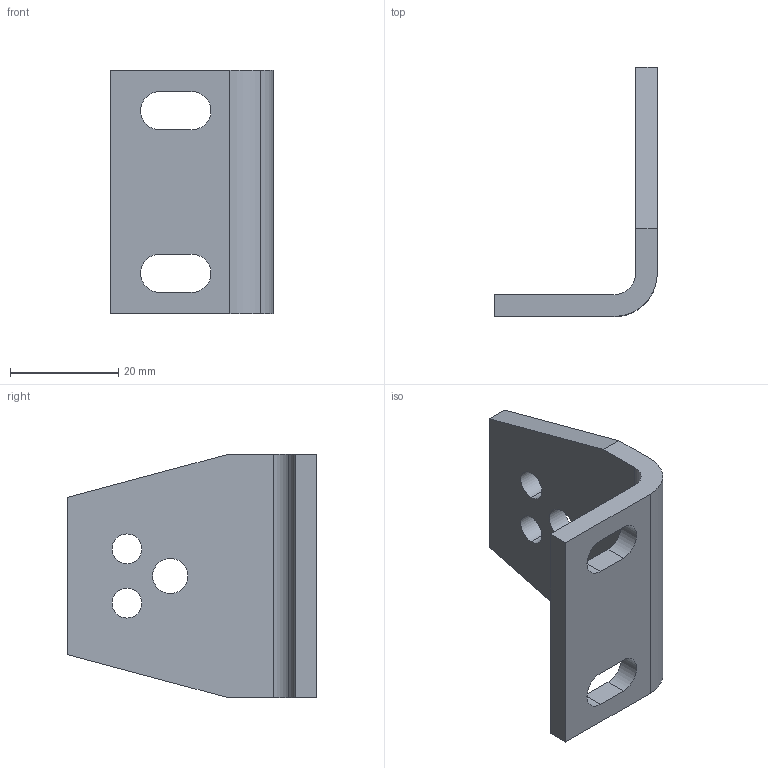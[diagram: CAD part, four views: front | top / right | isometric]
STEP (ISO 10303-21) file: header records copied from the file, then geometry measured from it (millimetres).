
FILE_DESCRIPTION((''),'2;1');
FILE_NAME('D:\ROSTA\Gummifederelemente\3D\WS11-15_06590001.stp','2005-02-07T06:48:53',('Administrator'),(''),'Autodesk Inventor 8','Autodesk Inventor 8','');
FILE_SCHEMA(('AUTOMOTIVE_DESIGN { 1 0 10303 214 1 1 1 1 }'));
Length unit declared in the file: millimetre
Products named in the file (1): WS 11-15
Bounding box: 30 x 46 x 45 mm (x, y, z)
Volume: 10574.4 mm3; surface area: 6638.9 mm2
Topology: 1 solids, 1 shells, 28 faces, 78 edges, 52 vertices
Faces by surface type: cylinder 14, plane 14
Entity records: 953 total; most frequent: DIRECTION 164, CARTESIAN_POINT 159, ORIENTED_EDGE 156, EDGE_CURVE 78, AXIS2_PLACEMENT_3D 57, VERTEX_POINT 52, VECTOR 50, LINE 50
